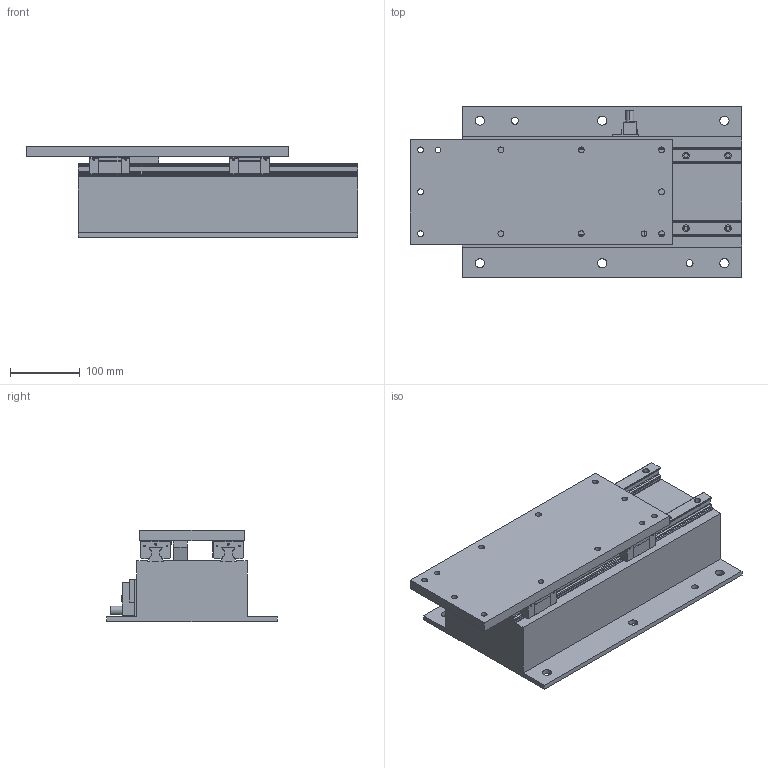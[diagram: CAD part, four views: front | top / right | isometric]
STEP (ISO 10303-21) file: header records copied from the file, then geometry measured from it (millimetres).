
FILE_DESCRIPTION(('CATIA V5 STEP Exchange'),'2;1');
FILE_NAME('C:\Users\huberm\Desktop\LE_30_100_T12_TUENKERS.stp','2012-03-14T07:21:04+00:00',('none'),('none'),'CATIA Version 5 Release 19 SP 3 (IN-10)','CATIA V5 STEP AP203','none');
FILE_SCHEMA(('CONFIG_CONTROL_DESIGN'));
Length unit declared in the file: millimetre
Products named in the file (1): LE_30_100_T12_TUENKERS
Bounding box: 475 x 244 x 130.5 mm (x, y, z)
Volume: 7035361.6 mm3; surface area: 517958.1 mm2
Topology: 1 solids, 10 shells, 963 faces, 2600 edges, 1521 vertices
Faces by surface type: bspline 432, plane 335, cylinder 185, cone 7, torus 4
Entity records: 33813 total; most frequent: CARTESIAN_POINT 15330, ORIENTED_EDGE 4816, EDGE_CURVE 2408, DIRECTION 2367, VERTEX_POINT 1521, EDGE_LOOP 1105, VECTOR 1091, LINE 1091
